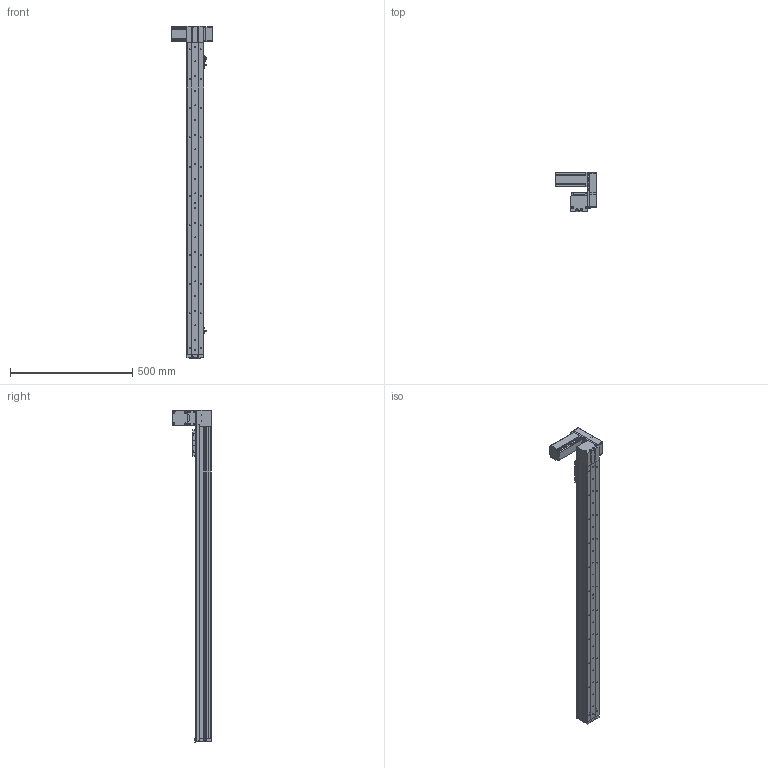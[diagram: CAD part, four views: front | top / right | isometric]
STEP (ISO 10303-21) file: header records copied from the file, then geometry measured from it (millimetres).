
FILE_DESCRIPTION (( 'STEP AP214' ), '1' );
FILE_NAME ('KSD68BS-S1100-MLU-CR.STEP', '2019-08-27T08:21:21', ( '微软用户' ), ( '微软中国' ), 'SwSTEP 2.0', 'SolidWorks 2014', '' );
FILE_SCHEMA (( 'AUTOMOTIVE_DESIGN' ));
Length unit declared in the file: millimetre
Products named in the file (14): 台达ECMA－C20604AS伺服电机（400W); KSD68BS 1100行程底板全封闭; 68遵裔啣揤啣1; KSD68BS-S1100-MLU-CR; 68宽单导轨全封闭丝杆传动安装板1防护罩; KSD68BS 1100行程侧板全封闭; 68宽单导轨全封闭同步带端板; 68单导轨全封闭同步带电机座左; 68单导轨全封闭同步带安装板; KSD68BS 1100行程盖板全封闭; 悵誘欶奻狟殏; 68宽马达安装板连板上折同步带; 感应片68宽全封闭; U倰嫖萇EEㄜSX672
Assembly tree (17 placements, depth 2):
  KSD68BS-S1100-MLU-CR
    KSD68BS 1100行程底板全封闭
    台达ECMA－C20604AS伺服电机（400W)
    U倰嫖萇EEㄜSX672  x3
    感应片68宽全封闭
    68宽马达安装板连板上折同步带
    悵誘欶奻狟殏
    68单导轨全封闭同步带安装板
    68单导轨全封闭同步带电机座左
    68宽单导轨全封闭同步带端板
    KSD68BS 1100行程侧板全封闭  x2
    68宽单导轨全封闭丝杆传动安装板1防护罩
    68遵裔啣揤啣1  x2
    KSD68BS 1100行程盖板全封闭
Bounding box: 167.2 x 159.5 x 1358.1 mm (x, y, z)
Volume: 2670667.9 mm3; surface area: 1035976.6 mm2
Topology: 18 solids, 18 shells, 1541 faces, 4395 edges, 2808 vertices
Faces by surface type: cylinder 740, plane 629, cone 172
Entity records: 49239 total; most frequent: CARTESIAN_POINT 8511, DIRECTION 7354, ORIENTED_EDGE 7034, EDGE_CURVE 3517, AXIS2_PLACEMENT_3D 2663, VERTEX_POINT 2306, VECTOR 2028, LINE 2028
